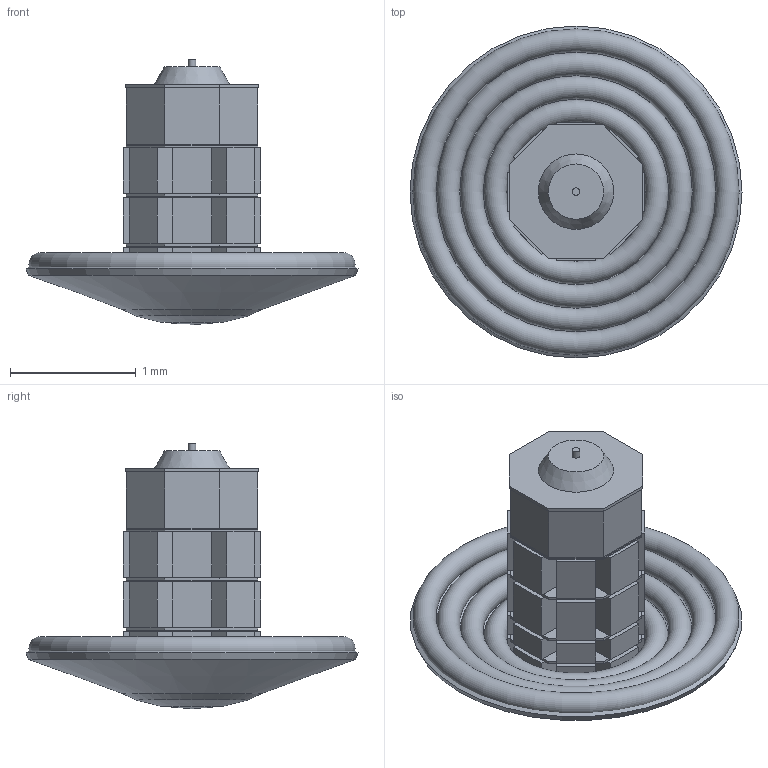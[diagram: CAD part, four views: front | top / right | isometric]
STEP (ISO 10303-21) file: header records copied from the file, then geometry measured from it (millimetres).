
FILE_DESCRIPTION(('Open CASCADE Model'),'2;1');
FILE_NAME('Open CASCADE Shape Model','2026-10-04T09:10:04',('Author'),( 'Open CASCADE'),'Open CASCADE STEP processor 7.9','Open CASCADE 7.9' ,'Unknown');
FILE_SCHEMA(('AUTOMOTIVE_DESIGN { 1 0 10303 214 1 1 1 1 }'));
Length unit declared in the file: millimetre
Products named in the file (55): LELP-1-entry; bay_ring_1; bay_ring_2; bay_ring_3; bay_ring_4; bay_ring_5_top; central_core; bay_M_01_Zurich_Biotech_Lab; bay_M_02_Bengaluru_Biosciences; bay_M_03_Basel_Pharma_Research; bay_M_04_Hyderabad_Cell_Lab; bay_M_05_Lausanne_Materials; bay_M_06_Geneva_Protein_Lab; bay_M_07_Chennai_Microfluidics; bay_M_08_Pune_Plant_Science; bay_M_09_Zurich_Biotech_Lab; bay_M_10_Bengaluru_Biosciences; bay_M_11_Basel_Pharma_Research; bay_M_12_Hyderabad_Cell_Lab; bay_M_13_Lausanne_Materials; bay_M_14_Geneva_Protein_Lab; bay_M_15_Chennai_Microfluidics; bay_M_16_Pune_Plant_Science; bay_L_17_RadSenRegen; bay_L_18_Bengaluru_Biosciences; bay_L_19_Basel_Pharma_Research; bay_L_20_Hyderabad_Cell_Lab; bay_L_21_Lausanne_Materials; bay_L_22_Geneva_Protein_Lab; bay_L_23_Chennai_Microfluidics; bay_L_24_Pune_Plant_Science; bay_L_25_Zurich_Biotech_Lab; bay_L_26_Bengaluru_Biosciences; bay_L_27_Basel_Pharma_Research; bay_L_28_Hyderabad_Cell_Lab; bay_L_29_Lausanne_Materials; bay_L_30_Geneva_Protein_Lab; bay_L_31_Chennai_Microfluidics; bay_L_32_Pune_Plant_Science; translation_rig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
Assembly tree (54 placements, depth 2):
  LELP-1-entry
    bay_ring_1
    bay_ring_2
    bay_ring_3
    bay_ring_4
    bay_ring_5_top
    central_core
    bay_M_01_Zurich_Biotech_Lab
    bay_M_02_Bengaluru_Biosciences
    bay_M_03_Basel_Pharma_Research
    bay_M_04_Hyderabad_Cell_Lab
    bay_M_05_Lausanne_Materials
    bay_M_06_Geneva_Protein_Lab
    bay_M_07_Chennai_Microfluidics
    bay_M_08_Pune_Plant_Science
    bay_M_09_Zurich_Biotech_Lab
    bay_M_10_Bengaluru_Biosciences
    bay_M_11_Basel_Pharma_Research
    bay_M_12_Hyderabad_Cell_Lab
    bay_M_13_Lausanne_Materials
    bay_M_14_Geneva_Protein_Lab
    bay_M_15_Chennai_Microfluidics
    bay_M_16_Pune_Plant_Science
    bay_L_17_RadSenRegen
    bay_L_18_Bengaluru_Biosciences
    bay_L_19_Basel_Pharma_Research
    bay_L_20_Hyderabad_Cell_Lab
    bay_L_21_Lausanne_Materials
    bay_L_22_Geneva_Protein_Lab
    bay_L_23_Chennai_Microfluidics
    bay_L_24_Pune_Plant_Science
    bay_L_25_Zurich_Biotech_Lab
    bay_L_26_Bengaluru_Biosciences
    bay_L_27_Basel_Pharma_Research
    bay_L_28_Hyderabad_Cell_Lab
    bay_L_29_Lausanne_Materials
    bay_L_30_Geneva_Protein_Lab
    bay_L_31_Chennai_Microfluidics
    bay_L_32_Pune_Plant_Science
    translation_rig
    central_chamber_wall
    40x_fluorescence_microscope
    chamber_lid
    parachute_canister_9_m_main
    recovery_beacon
    avionics_radios_Sentinel_crypto_unit
    battery_1_5_kWh
    ADCS_3_reaction_wheels_star_tracker_magnetorquers
    thermal_control
    nose
    flexible_TPS
    inflatable_torus_1
    inflatable_torus_2
    inflatable_torus_3
    inflatable_torus_4
Bounding box: 2.64 x 2.64 x 2.11 mm (x, y, z)
Volume: 2.1 mm3; surface area: 58.6 mm2
Topology: 54 solids, 54 shells, 336 faces, 705 edges, 466 vertices
Faces by surface type: plane 321, cone 8, torus 4, cylinder 3
Full cylindrical faces by diameter (mm): 0.06 x1, 1.1 x2
Entity records: 19238 total; most frequent: CARTESIAN_POINT 3001, DIRECTION 2883, LINE 2054, VECTOR 2054, ORIENTED_EDGE 1408, PCURVE 1408, DEFINITIONAL_REPRESENTATION 1408, EDGE_CURVE 704
